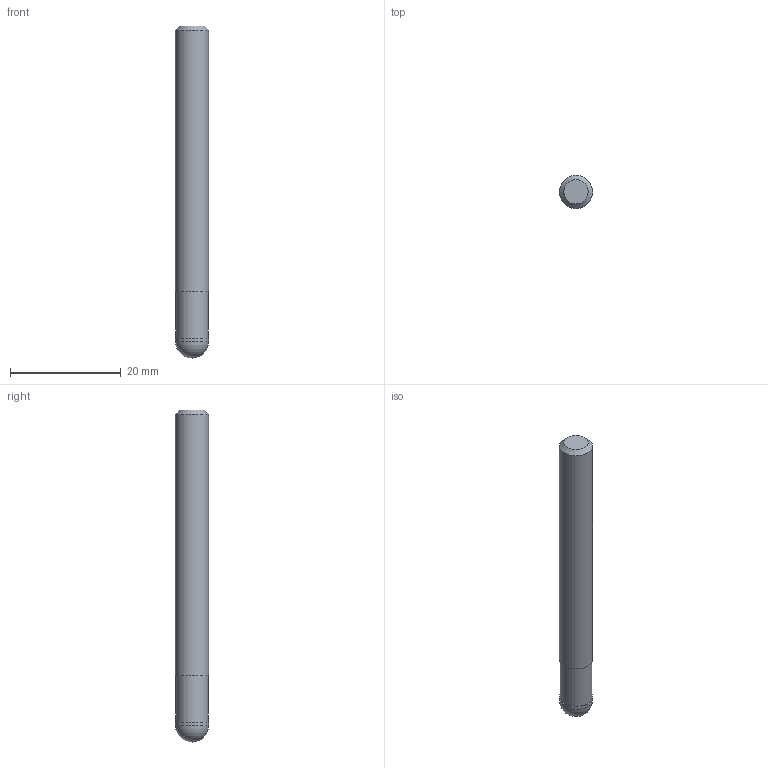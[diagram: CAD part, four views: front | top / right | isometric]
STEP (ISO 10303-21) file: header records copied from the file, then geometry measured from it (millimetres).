
FILE_DESCRIPTION((''),'2;1');
FILE_NAME('C:\Users\nsx150\AppData\Local\Temp\Mastercam 2021\LJSIDMOTM8\TEMP.step','2021-08-03T14:23:23',(''),(''),'STEP Write','Mastercam 2021 ... CNC Software, Inc.','');
FILE_SCHEMA(('AUTOMOTIVE_DESIGN'));
Length unit declared in the file: millimetre
Products named in the file (1): None
Bounding box: 6 x 6 x 60 mm (x, y, z)
Volume: 1647.1 mm3; surface area: 1200.9 mm2
Topology: 2 solids, 2 shells, 9 faces, 13 edges, 8 vertices
Faces by surface type: plane 4, cylinder 3, sphere 1, cone 1
Full cylindrical faces by diameter (mm): 5.8 x1, 6 x2
Entity records: 211 total; most frequent: DIRECTION 36, CARTESIAN_POINT 25, AXIS2_PLACEMENT_3D 18, ORIENTED_EDGE 14, EDGE_LOOP 14, STYLED_ITEM 12, ADVANCED_FACE 9, FACE_BOUND 8
